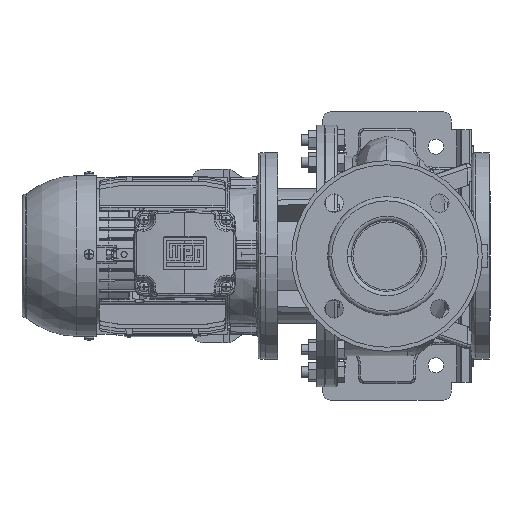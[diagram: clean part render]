
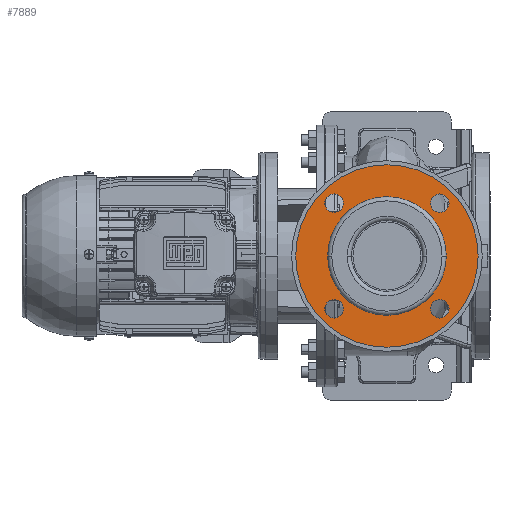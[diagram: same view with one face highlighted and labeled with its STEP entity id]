
A CAD part, left-side view. The second image highlights one B-rep face of the part: STEP entity #7889.
In plain terms, the highlighted planar face has unit normal (-1, 0, 0).
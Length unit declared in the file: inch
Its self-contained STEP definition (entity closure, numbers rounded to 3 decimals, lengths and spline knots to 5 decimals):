
#256 = ORIENTED_EDGE ( 'NONE', *, *, #84222, .T. ) ;
#6522 = ORIENTED_EDGE ( 'NONE', *, *, #25492, .F. ) ;
#6528 = CIRCLE ( 'NONE', #104949, 0.35433 ) ;
#7761 = CIRCLE ( 'NONE', #96814, 2.26378 ) ;
#7889 = ADVANCED_FACE ( 'NONE', ( #17878, #77814, #87101, #53333, #104512, #88812 ), #16753, .F. ) ;
#7995 = DIRECTION ( 'NONE',  ( 0., 1., 0. ) ) ;
#8215 = CARTESIAN_POINT ( 'NONE',  ( -6.61417, -1.16142, 0. ) ) ;
#8767 = DIRECTION ( 'NONE',  ( 1., 0., 0. ) ) ;
#9739 = EDGE_LOOP ( 'NONE', ( #6522, #63324 ) ) ;
#9824 = VERTEX_POINT ( 'NONE', #89126 ) ;
#10648 = DIRECTION ( 'NONE',  ( 0., 0., 1. ) ) ;
#12483 = DIRECTION ( 'NONE',  ( 1., 0., 0. ) ) ;
#13883 = DIRECTION ( 'NONE',  ( 0., -1., 0. ) ) ;
#13920 = EDGE_CURVE ( 'NONE', #14336, #38116, #14366, .T. ) ;
#14197 = EDGE_LOOP ( 'NONE', ( #74202, #63982 ) ) ;
#14336 = VERTEX_POINT ( 'NONE', #57911 ) ;
#14366 = CIRCLE ( 'NONE', #49634, 0.35433 ) ;
#14825 = ORIENTED_EDGE ( 'NONE', *, *, #13920, .T. ) ;
#14843 = EDGE_LOOP ( 'NONE', ( #63628, #97306 ) ) ;
#16753 = PLANE ( 'NONE',  #49793 ) ;
#17318 = CIRCLE ( 'NONE', #95328, 0.35433 ) ;
#17878 = FACE_OUTER_BOUND ( 'NONE', #14197, .T. ) ;
#19032 = CARTESIAN_POINT ( 'NONE',  ( -6.61417, -7.01832, 2.01832 ) ) ;
#20701 = CIRCLE ( 'NONE', #65257, 3.48425 ) ;
#20820 = CARTESIAN_POINT ( 'NONE',  ( -6.61417, -2.62735, 1.66399 ) ) ;
#23364 = DIRECTION ( 'NONE',  ( 0., 1., 0. ) ) ;
#24382 = CARTESIAN_POINT ( 'NONE',  ( -6.61417, -6.66399, -1.66399 ) ) ;
#24874 = DIRECTION ( 'NONE',  ( 0., 1., 0. ) ) ;
#25492 = EDGE_CURVE ( 'NONE', #31094, #9824, #58630, .T. ) ;
#25704 = AXIS2_PLACEMENT_3D ( 'NONE', #87650, #60331, #7995 ) ;
#25747 = EDGE_CURVE ( 'NONE', #36283, #99007, #90146, .T. ) ;
#25946 = VERTEX_POINT ( 'NONE', #48263 ) ;
#26635 = CIRCLE ( 'NONE', #65637, 0.35433 ) ;
#26730 = CIRCLE ( 'NONE', #58267, 0.35433 ) ;
#27542 = DIRECTION ( 'NONE',  ( 1., 0., 0. ) ) ;
#30027 = EDGE_LOOP ( 'NONE', ( #14825, #33784 ) ) ;
#31094 = VERTEX_POINT ( 'NONE', #64162 ) ;
#32843 = VERTEX_POINT ( 'NONE', #8215 ) ;
#33784 = ORIENTED_EDGE ( 'NONE', *, *, #89102, .T. ) ;
#36086 = EDGE_CURVE ( 'NONE', #25946, #62155, #58791, .T. ) ;
#36283 = VERTEX_POINT ( 'NONE', #19032 ) ;
#38116 = VERTEX_POINT ( 'NONE', #78473 ) ;
#38574 = EDGE_CURVE ( 'NONE', #31094, #9824, #7761, .T. ) ;
#39455 = DIRECTION ( 'NONE',  ( 1., 0., 0. ) ) ;
#39460 = DIRECTION ( 'NONE',  ( 1., 0., 0. ) ) ;
#40058 = AXIS2_PLACEMENT_3D ( 'NONE', #88415, #8767, #77420 ) ;
#40825 = DIRECTION ( 'NONE',  ( 1., 0., 0. ) ) ;
#43020 = DIRECTION ( 'NONE',  ( 1., 0., 0. ) ) ;
#44740 = EDGE_LOOP ( 'NONE', ( #78424, #256 ) ) ;
#45746 = AXIS2_PLACEMENT_3D ( 'NONE', #92116, #12483, #93261 ) ;
#46655 = DIRECTION ( 'NONE',  ( 0., 1., 0. ) ) ;
#48191 = CARTESIAN_POINT ( 'NONE',  ( -6.61417, -4.64567, 0. ) ) ;
#48263 = CARTESIAN_POINT ( 'NONE',  ( -6.61417, -6.66399, -2.37265 ) ) ;
#48954 = CARTESIAN_POINT ( 'NONE',  ( -6.61417, -4.64567, 0. ) ) ;
#49634 = AXIS2_PLACEMENT_3D ( 'NONE', #92951, #39460, #62304 ) ;
#49793 = AXIS2_PLACEMENT_3D ( 'NONE', #95222, #77233, #24874 ) ;
#49886 = DIRECTION ( 'NONE',  ( 0., 1., 0. ) ) ;
#50468 = CARTESIAN_POINT ( 'NONE',  ( -6.61417, -2.62735, -2.01832 ) ) ;
#50655 = CARTESIAN_POINT ( 'NONE',  ( -6.61417, -6.66399, 2.01832 ) ) ;
#53333 = FACE_BOUND ( 'NONE', #14843, .T. ) ;
#57911 = CARTESIAN_POINT ( 'NONE',  ( -6.61417, -2.27302, -2.01832 ) ) ;
#58056 = VERTEX_POINT ( 'NONE', #77405 ) ;
#58267 = AXIS2_PLACEMENT_3D ( 'NONE', #50468, #101690, #13883 ) ;
#58630 = CIRCLE ( 'NONE', #79050, 2.26378 ) ;
#58791 = CIRCLE ( 'NONE', #45746, 0.35433 ) ;
#60331 = DIRECTION ( 'NONE',  ( 1., 0., 0. ) ) ;
#62155 = VERTEX_POINT ( 'NONE', #24382 ) ;
#62304 = DIRECTION ( 'NONE',  ( 0., 1., 0. ) ) ;
#62751 = CARTESIAN_POINT ( 'NONE',  ( -6.61417, -6.66399, -2.01832 ) ) ;
#63324 = ORIENTED_EDGE ( 'NONE', *, *, #38574, .T. ) ;
#63628 = ORIENTED_EDGE ( 'NONE', *, *, #36086, .T. ) ;
#63982 = ORIENTED_EDGE ( 'NONE', *, *, #83981, .T. ) ;
#64162 = CARTESIAN_POINT ( 'NONE',  ( -6.61417, -2.38189, 0. ) ) ;
#65257 = AXIS2_PLACEMENT_3D ( 'NONE', #90256, #80965, #46655 ) ;
#65637 = AXIS2_PLACEMENT_3D ( 'NONE', #50655, #87281, #112890 ) ;
#67525 = DIRECTION ( 'NONE',  ( -1., 0., 0. ) ) ;
#71257 = EDGE_CURVE ( 'NONE', #77612, #93019, #6528, .T. ) ;
#72742 = ORIENTED_EDGE ( 'NONE', *, *, #25747, .T. ) ;
#74202 = ORIENTED_EDGE ( 'NONE', *, *, #111222, .F. ) ;
#75731 = CARTESIAN_POINT ( 'NONE',  ( -6.61417, -2.62735, 2.01832 ) ) ;
#75854 = CIRCLE ( 'NONE', #25704, 3.48425 ) ;
#77233 = DIRECTION ( 'NONE',  ( 1., 0., 0. ) ) ;
#77405 = CARTESIAN_POINT ( 'NONE',  ( -6.61417, -8.12992, 0. ) ) ;
#77420 = DIRECTION ( 'NONE',  ( 0., -1., 0. ) ) ;
#77612 = VERTEX_POINT ( 'NONE', #85148 ) ;
#77814 = FACE_BOUND ( 'NONE', #9739, .T. ) ;
#78424 = ORIENTED_EDGE ( 'NONE', *, *, #71257, .T. ) ;
#78473 = CARTESIAN_POINT ( 'NONE',  ( -6.61417, -2.98168, -2.01832 ) ) ;
#79050 = AXIS2_PLACEMENT_3D ( 'NONE', #48954, #67525, #23364 ) ;
#80965 = DIRECTION ( 'NONE',  ( -1., 0., 0. ) ) ;
#83981 = EDGE_CURVE ( 'NONE', #32843, #58056, #20701, .T. ) ;
#84222 = EDGE_CURVE ( 'NONE', #93019, #77612, #17318, .T. ) ;
#85148 = CARTESIAN_POINT ( 'NONE',  ( -6.61417, -2.62735, 2.37265 ) ) ;
#87101 = FACE_BOUND ( 'NONE', #96504, .T. ) ;
#87281 = DIRECTION ( 'NONE',  ( 1., 0., 0. ) ) ;
#87650 = CARTESIAN_POINT ( 'NONE',  ( -6.61417, -4.64567, 0. ) ) ;
#88143 = CARTESIAN_POINT ( 'NONE',  ( -6.61417, -6.30966, 2.01832 ) ) ;
#88415 = CARTESIAN_POINT ( 'NONE',  ( -6.61417, -6.66399, 2.01832 ) ) ;
#88812 = FACE_BOUND ( 'NONE', #44740, .T. ) ;
#89102 = EDGE_CURVE ( 'NONE', #38116, #14336, #26730, .T. ) ;
#89126 = CARTESIAN_POINT ( 'NONE',  ( -6.61417, -6.90945, 0. ) ) ;
#90146 = CIRCLE ( 'NONE', #40058, 0.35433 ) ;
#90256 = CARTESIAN_POINT ( 'NONE',  ( -6.61417, -4.64567, 0. ) ) ;
#90421 = CIRCLE ( 'NONE', #105282, 0.35433 ) ;
#92025 = CARTESIAN_POINT ( 'NONE',  ( -6.61417, -2.62735, 2.01832 ) ) ;
#92116 = CARTESIAN_POINT ( 'NONE',  ( -6.61417, -6.66399, -2.01832 ) ) ;
#92951 = CARTESIAN_POINT ( 'NONE',  ( -6.61417, -2.62735, -2.01832 ) ) ;
#93019 = VERTEX_POINT ( 'NONE', #20820 ) ;
#93261 = DIRECTION ( 'NONE',  ( 0., 0., -1. ) ) ;
#95222 = CARTESIAN_POINT ( 'NONE',  ( -6.61417, -4.64567, 0. ) ) ;
#95328 = AXIS2_PLACEMENT_3D ( 'NONE', #75731, #40825, #111187 ) ;
#95910 = DIRECTION ( 'NONE',  ( 0., 0., 1. ) ) ;
#96504 = EDGE_LOOP ( 'NONE', ( #72742, #104878 ) ) ;
#96814 = AXIS2_PLACEMENT_3D ( 'NONE', #48191, #39455, #49886 ) ;
#97306 = ORIENTED_EDGE ( 'NONE', *, *, #109628, .T. ) ;
#99007 = VERTEX_POINT ( 'NONE', #88143 ) ;
#101690 = DIRECTION ( 'NONE',  ( 1., 0., 0. ) ) ;
#103031 = EDGE_CURVE ( 'NONE', #99007, #36283, #26635, .T. ) ;
#104512 = FACE_BOUND ( 'NONE', #30027, .T. ) ;
#104878 = ORIENTED_EDGE ( 'NONE', *, *, #103031, .T. ) ;
#104949 = AXIS2_PLACEMENT_3D ( 'NONE', #92025, #27542, #10648 ) ;
#105282 = AXIS2_PLACEMENT_3D ( 'NONE', #62751, #43020, #95910 ) ;
#109628 = EDGE_CURVE ( 'NONE', #62155, #25946, #90421, .T. ) ;
#111187 = DIRECTION ( 'NONE',  ( 0., 0., -1. ) ) ;
#111222 = EDGE_CURVE ( 'NONE', #32843, #58056, #75854, .T. ) ;
#112890 = DIRECTION ( 'NONE',  ( 0., 1., 0. ) ) ;
